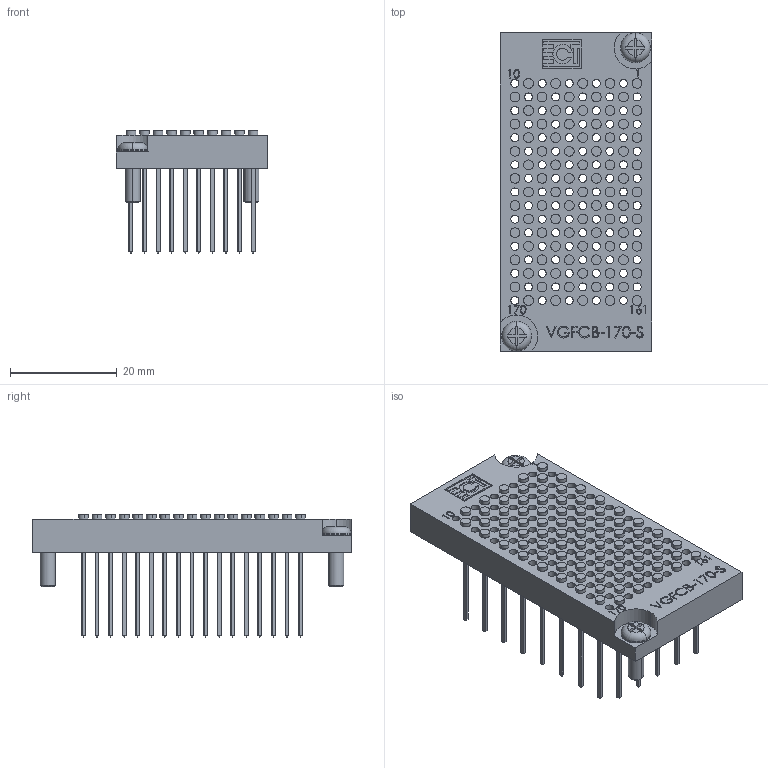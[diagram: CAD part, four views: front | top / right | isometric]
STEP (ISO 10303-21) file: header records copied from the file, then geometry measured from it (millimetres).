
FILE_DESCRIPTION (( 'STEP AP214' ), '1' );
FILE_NAME ('820492_CA.STEP', '2016-12-19T22:02:21', ( '' ), ( '' ), 'SwSTEP 2.0', 'SolidWorks 2014', '' );
FILE_SCHEMA (( 'AUTOMOTIVE_DESIGN' ));
Length unit declared in the file: inch
Products named in the file (4): PAN PHILIP SCREW (INCHES)_#4-40 UNC X 0.375" (VG); A12476; B10031-S; 820492_CA
Assembly tree (88 placements, depth 2):
  820492_CA
    B10031-S
    A12476  x85
    PAN PHILIP SCREW (INCHES)_#4-40 UNC X 0.375" (VG)  x2
Bounding box: 28.32 x 59.56 x 22.86 mm (x, y, z)
Volume: 9971.9 mm3; surface area: 15533.1 mm2
Topology: 88 solids, 88 shells, 2678 faces, 5920 edges, 3716 vertices
Faces by surface type: plane 1354, cylinder 867, cone 344, bspline 105, torus 8
Entity records: 35723 total; most frequent: CARTESIAN_POINT 11807, ORIENTED_EDGE 3968, DIRECTION 3900, EDGE_CURVE 1984, AXIS2_PLACEMENT_3D 1437, VERTEX_POINT 1318, EDGE_LOOP 1106, LINE 1026
